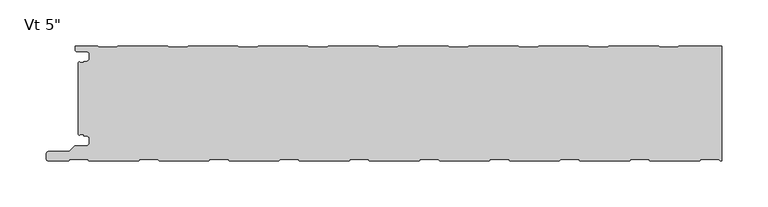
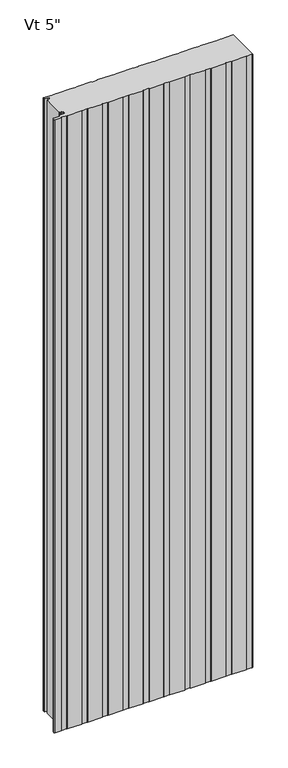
"""IFC4 building model written with IfcOpenShell, lengths in millimetres: plate geometry."""

import ifcopenshell
import ifcopenshell.guid

model = None  # the IFC model being written
_history = None  # IfcOwnerHistory: only IFC2X3 demands one
_inside = {}  # id of a spatial element -> (the spatial element, [elements in it])
_under = {}  # id of a project, library or spatial element -> (it, [spatial elements below it])
_declared = {}  # id of a project -> (the project, [libraries it declares])
_typed = {}  # id of a type object -> (the type object, [elements of that type])
_made_of = {}  # id of a material, layer set ... -> (it, [elements and type objects made of it])


def new_model(schema):
    """Start an empty IFC model of exactly this schema.

    Asked for "IFC4X3", IfcOpenShell would pick the latest addendum, in which some entities
    have other attributes; the version numbers below select the first issue.
    IFC2X3 requires an IfcOwnerHistory on every rooted entity: one is made here for all.
    """
    global model, _history
    if schema == "IFC4X3":
        model = ifcopenshell.file(schema_version=(4, 3, 0, 0))
    else:
        model = ifcopenshell.file(schema=schema)
    _inside.clear()
    _under.clear()
    _declared.clear()
    _typed.clear()
    _made_of.clear()
    _history = None
    if model.schema == "IFC2X3":
        org = make("IfcOrganization", Name="unknown")
        user = make(
            "IfcPersonAndOrganization",
            ThePerson=make("IfcPerson", FamilyName="unknown"),
            TheOrganization=org,
        )
        app = make(
            "IfcApplication",
            ApplicationDeveloper=org,
            Version="unknown",
            ApplicationFullName="unknown",
            ApplicationIdentifier="unknown",
        )
        _history = make(
            "IfcOwnerHistory",
            OwningUser=user,
            OwningApplication=app,
            ChangeAction="ADDED",
            CreationDate=0,
        )
    return model


def make(cls, **values):
    """One entity of the class cls with the attributes given. An attribute that is None is left unset."""
    return model.create_entity(
        cls, **{name: value for name, value in values.items() if value is not None}
    )


def rooted(cls, **values):
    """An entity with a GlobalId (a new one), such as an element, a storey or a relation."""
    return make(cls, GlobalId=ifcopenshell.guid.new(), OwnerHistory=_history, **values)


def si_unit(unit_type, name, prefix=None):
    """IfcSIUnit, for example si_unit("LENGTHUNIT", "METRE", prefix="MILLI")."""
    return make("IfcSIUnit", UnitType=unit_type, Prefix=prefix, Name=name)


def assignment(units):
    """IfcUnitAssignment: the units of a project."""
    return None if units is None else make("IfcUnitAssignment", Units=units)


def point(xyz):
    """IfcCartesianPoint."""
    return None if xyz is None else make("IfcCartesianPoint", Coordinates=xyz)


def direction(xyz):
    """IfcDirection."""
    return None if xyz is None else make("IfcDirection", DirectionRatios=xyz)


def frame(location, z_axis=None, x_axis=None):
    """IfcAxis2Placement3D, a coordinate frame: its origin and axes. An axis left out is left unset."""
    return make(
        "IfcAxis2Placement3D",
        Location=point(location),
        Axis=direction(z_axis),
        RefDirection=direction(x_axis),
    )


def frame_2d(location, x_axis=None):
    """IfcAxis2Placement2D, a coordinate frame in the plane: its origin and x axis."""
    return make(
        "IfcAxis2Placement2D", Location=point(location), RefDirection=direction(x_axis)
    )


def origin():
    """The frame at (0, 0, 0) with its axes left unset."""
    return frame((0.0, 0.0, 0.0))


def origin_with_axes():
    """The frame at (0, 0, 0) with the z axis (0, 0, 1) and the x axis (1, 0, 0) written out."""
    return frame((0.0, 0.0, 0.0), z_axis=(0.0, 0.0, 1.0), x_axis=(1.0, 0.0, 0.0))


def place(relative_to, where):
    """IfcLocalPlacement: puts the frame where relative to a parent placement (None: the world)."""
    return make(
        "IfcLocalPlacement", PlacementRelTo=relative_to, RelativePlacement=where
    )


def context(
    kind, dimensions, precision=None, world=None, true_north=None, identifier=None
):
    """IfcGeometricRepresentationContext, for example the 3D "Model" context."""
    return make(
        "IfcGeometricRepresentationContext",
        ContextIdentifier=identifier,
        ContextType=kind,
        CoordinateSpaceDimension=dimensions,
        Precision=precision,
        WorldCoordinateSystem=world,
        TrueNorth=true_north,
    )


def project(units=None, contexts=None):
    """IfcProject with its units and contexts."""
    return rooted(
        "IfcProject",
        Name="project",
        RepresentationContexts=contexts,
        UnitsInContext=assignment(units),
    )


def spatial(cls, under=None, at=None, **own):
    """A site, building, storey or space (cls), placed at a placement, below another one or the project."""
    s = rooted(cls, ObjectPlacement=at, **own)
    if under is not None:
        _under.setdefault(under.id(), (under, []))[1].append(s)
    return s


def polyline(points):
    """IfcPolyline through the points."""
    return make("IfcPolyline", Points=[point(p) for p in points])


def circle_curve(where, radius):
    """IfcCircle in the frame where."""
    return make("IfcCircle", Position=where, Radius=radius)


def trimmed(basis, trim1, trim2, sense, master):
    """IfcTrimmedCurve: the piece of a basis curve between two trims."""
    return make(
        "IfcTrimmedCurve",
        BasisCurve=basis,
        Trim1=trim1,
        Trim2=trim2,
        SenseAgreement=sense,
        MasterRepresentation=master,
    )


def segment(curve, same_sense, transition):
    """IfcCompositeCurveSegment."""
    return make(
        "IfcCompositeCurveSegment",
        Transition=transition,
        SameSense=same_sense,
        ParentCurve=curve,
    )


def composite_curve(segments, self_intersect=None):
    """IfcCompositeCurve: segments joined end to end."""
    return make("IfcCompositeCurve", Segments=segments, SelfIntersect=self_intersect)


def outline(outer, holes=None, kind="AREA"):
    """IfcArbitraryClosedProfileDef: a profile drawn as a closed curve; with holes, ...WithVoids."""
    if holes is None:
        return make("IfcArbitraryClosedProfileDef", ProfileType=kind, OuterCurve=outer)
    return make(
        "IfcArbitraryProfileDefWithVoids",
        ProfileType=kind,
        OuterCurve=outer,
        InnerCurves=holes,
    )


def extrude(swept, where, along, depth):
    """IfcExtrudedAreaSolid: the profile swept, set in the frame where, extruded along a direction by depth."""
    return make(
        "IfcExtrudedAreaSolid",
        SweptArea=swept,
        Position=where,
        ExtrudedDirection=direction(along),
        Depth=depth,
    )


def shape(context_of_items, identifier, shape_type, items):
    """IfcShapeRepresentation: the items that make up one representation, for example the "Body"."""
    return make(
        "IfcShapeRepresentation",
        ContextOfItems=context_of_items,
        RepresentationIdentifier=identifier,
        RepresentationType=shape_type,
        Items=items,
    )


def source(mapping_origin, context_of_items, identifier, shape_type, items):
    """IfcRepresentationMap: a shape defined once, which mapped items show again and again."""
    return make(
        "IfcRepresentationMap",
        MappingOrigin=mapping_origin,
        MappedRepresentation=shape(context_of_items, identifier, shape_type, items),
    )


def transform(
    local_origin,
    x_axis=None,
    y_axis=None,
    z_axis=None,
    scale=None,
    scale2=None,
    scale3=None,
    uniform=True,
):
    """IfcCartesianTransformationOperator3D, or its non-uniform kind. x_axis, y_axis, z_axis: its Axis1, 2, 3."""
    if uniform:
        return make(
            "IfcCartesianTransformationOperator3D",
            Axis1=direction(x_axis),
            Axis2=direction(y_axis),
            LocalOrigin=point(local_origin),
            Scale=scale,
            Axis3=direction(z_axis),
        )
    return make(
        "IfcCartesianTransformationOperator3DnonUniform",
        Axis1=direction(x_axis),
        Axis2=direction(y_axis),
        LocalOrigin=point(local_origin),
        Scale=scale,
        Axis3=direction(z_axis),
        Scale2=scale2,
        Scale3=scale3,
    )


def mapped(mapping_source, mapping_target):
    """IfcMappedItem: shows the shape of a source again, moved by a transform."""
    return make(
        "IfcMappedItem", MappingSource=mapping_source, MappingTarget=mapping_target
    )


def made_of(thing, what):
    """Note that an element or type object is made of a material, layer set ...; save() writes the relation."""
    if what is not None:
        _made_of.setdefault(what.id(), (what, []))[1].append(thing)
    return thing


def element(
    cls,
    number,
    at=None,
    inside=None,
    cuts=None,
    type_object=None,
    material=None,
    context=None,
    identifier="Body",
    shape_type=None,
    held_by="IfcProductDefinitionShape",
    body=None,
    shapes=None,
    **own,
):
    """One element of the class cls, such as IfcWall. Its Tag is "e" and its number.

    at: its placement. inside: the storey or other place that contains it. cuts: it is an
    opening in that element (IfcRelVoidsElement). A single representation is given by context,
    identifier, shape_type and body (its items); several are given by shapes. held_by: the class
    of the entity that holds the representations. save() writes the other relations.
    """
    e = rooted(cls, Tag="e%d" % number, ObjectPlacement=at, **own)
    if body is not None:
        shapes = [shape(context, identifier, shape_type, body)]
    if shapes is not None:
        e.Representation = make(held_by, Representations=shapes)
    if inside is not None:
        _inside.setdefault(inside.id(), (inside, []))[1].append(e)
    if cuts is not None:
        rooted(
            "IfcRelVoidsElement", RelatingBuildingElement=cuts, RelatedOpeningElement=e
        )
    if type_object is not None:
        _typed.setdefault(type_object.id(), (type_object, []))[1].append(e)
    return made_of(e, material)


def aggregate(whole, parts):
    """IfcRelAggregates: a whole, such as a stair, and the parts it consists of."""
    return rooted("IfcRelAggregates", RelatingObject=whole, RelatedObjects=parts)


def save(model, path):
    """Write the relations noted so far, then the file.

    IfcRelAggregates (storeys below a building ...), IfcRelContainedInSpatialStructure (elements
    in a storey), IfcRelDefinesByType, IfcRelAssociatesMaterial and IfcRelDeclares: one each for
    every whole, place, type object, material and project.
    """
    for whole, parts in _under.values():
        aggregate(whole, parts)
    for where, things in _inside.values():
        rooted(
            "IfcRelContainedInSpatialStructure",
            RelatedElements=things,
            RelatingStructure=where,
        )
    for kind, things in _typed.values():
        rooted("IfcRelDefinesByType", RelatedObjects=things, RelatingType=kind)
    for what, things in _made_of.values():
        rooted("IfcRelAssociatesMaterial", RelatedObjects=things, RelatingMaterial=what)
    for by, libraries in _declared.values():
        rooted("IfcRelDeclares", RelatingContext=by, RelatedDefinitions=libraries)
    model.write(path)


def plate_dabc4b1d(model_context):
    return source(origin(), model_context, "Body", "SweptSolid", [
        extrude(outline(composite_curve([segment(polyline([(-347.9683, -98.6760203), (-348.9999998, -97.6443205), (-348.9999998, -19.0328351), (-347.9686882, -18.0015235)]), True, "CONTINUOUS"), segment(trimmed(circle_curve(frame_2d((-346.968691, -18.0015175)), 0.9999972), [point((-347.9686882, -18.0015235))], [point((-346.968691, -19.0015147))], True, "CARTESIAN"), True, "CONTINUOUS"), segment(polyline([(-346.968691, -19.0015147), (-342.9684873, -19.0015147), (-342.9684873, -18.0015202), (-340.2762775, -18.0015202)]), True, "CONTINUOUS"), segment(trimmed(circle_curve(frame_2d((-340.2762775, -14.7015245)), 3.2999957), [point((-340.2762775, -18.0015202))], [point((-336.9762818, -14.7015245))], True, "CARTESIAN"), True, "CONTINUOUS"), segment(polyline([(-336.9762818, -14.7015245), (-336.9762818, -10.3015333)]), True, "CONTINUOUS"), segment(trimmed(circle_curve(frame_2d((-340.2762777, -10.3015333)), 3.2999959), [point((-336.9762818, -10.3015333))], [point((-340.2762777, -7.0015374))], True, "CARTESIAN"), True, "CONTINUOUS"), segment(polyline([(-340.2762777, -7.0015374), (-350.6962562, -7.0015374)]), True, "CONTINUOUS"), segment(trimmed(circle_curve(frame_2d((-350.6962562, -5.2315432)), 1.7699942), [point((-350.6962562, -7.0015374))], [point((-352.4662504, -5.2315432))], False, "CARTESIAN"), True, "CONTINUOUS"), segment(polyline([(-352.4662504, -5.2315432), (-352.4662504, -0.9999959), (-327.9659738, -0.9999959), (-326.5803312, -2.200235), (-307.2051649, -2.200235), (-305.8195319, -1.0000043), (-251.7661165, -1.0000043), (-250.3804836, -2.200235), (-231.0053173, -2.200235), (-229.6196843, -1.0000043), (-175.5662689, -1.0000043), (-174.180636, -2.200235), (-154.8054697, -2.200235), (-153.4198367, -1.0000043), (-99.3664213, -1.0000043), (-97.9807884, -2.200235), (-78.6056221, -2.200235), (-77.2199891, -1.0000043), (-23.1665737, -1.0000043), (-21.7809408, -2.200235), (-2.4057745, -2.200235), (-1.0201415, -1.0000043), (53.0332739, -1.0000043), (54.4189068, -2.200235), (73.7940731, -2.200235), (75.1797061, -1.0000043), (129.2331215, -1.0000043), (130.6187544, -2.200235), (149.9939207, -2.200235), (151.3795537, -1.0000043), (205.4329691, -1.0000043), (206.818602, -2.200235), (226.1937683, -2.200235), (227.5794013, -1.0000043), (281.6328167, -1.0000043), (283.0184496, -2.200235), (302.3936159, -2.200235), (303.7792489, -1.0000043), (350.4999998, -1.0000043), (350.4999998, -126.0051454), (348.445708, -126.0051454), (347.2403362, -124.7997736), (327.5209237, -124.7997736), (326.320693, -126.0000043), (272.2405612, -126.0000043), (271.0403305, -124.7997736), (251.320918, -124.7997736), (250.1206873, -126.0000043), (196.0405555, -126.0000043), (194.8403248, -124.7997736), (175.1209123, -124.7997736), (173.9206816, -126.0000043), (119.8405499, -126.0000043), (118.6403192, -124.7997736), (98.9209066, -124.7997736), (97.7206759, -126.0000043), (43.6405442, -126.0000043), (42.4403135, -124.7997736), (22.720901, -124.7997736), (21.5206703, -126.0000043), (-32.5594615, -126.0000043), (-33.7596922, -124.7997736), (-53.4791047, -124.7997736), (-54.6793354, -126.0000043), (-108.7594672, -126.0000043), (-109.9596979, -124.7997736), (-129.6791104, -124.7997736), (-130.8793411, -126.0000043), (-184.9594729, -126.0000043), (-186.1597036, -124.7997736), (-205.8791161, -124.7997736), (-207.0793468, -126.0000043), (-261.1594786, -126.0000043), (-262.3597093, -124.7997736), (-282.0791218, -124.7997736), (-283.2793525, -126.0000043), (-337.3594843, -126.0000043), (-338.559715, -124.7997736), (-358.2791275, -124.7997736), (-359.479096, -125.9997421), (-381.4521175, -125.9997421)]), True, "CONTINUOUS"), segment(trimmed(circle_curve(frame_2d((-381.4521175, -123.4295028)), 2.5702393), [point((-381.4521175, -125.9997421))], [point((-384.0125697, -123.2054172))], False, "CARTESIAN"), True, "CONTINUOUS"), segment(polyline([(-384.0125697, -123.2054172), (-383.5765707, -118.2235963)]), True, "CONTINUOUS"), segment(trimmed(circle_curve(frame_2d((-380.9198391, -118.7049869)), 2.6999926), [point((-383.5765707, -118.2235963))], [point((-380.9198391, -116.0049943))], False, "CARTESIAN"), True, "CONTINUOUS"), segment(polyline([(-380.9198391, -116.0049943), (-358.8247094, -116.0049943), (-353.3226383, -110.5029232)]), True, "CONTINUOUS"), segment(trimmed(circle_curve(frame_2d((-352.1205606, -111.7050009)), 1.6999946), [point((-353.3226383, -110.5029232))], [point((-352.1205606, -110.0050063))], False, "CARTESIAN"), True, "CONTINUOUS"), segment(polyline([(-352.1205606, -110.0050063), (-340.3096715, -110.0050063)]), True, "CONTINUOUS"), segment(trimmed(circle_curve(frame_2d((-340.3096715, -106.655011)), 3.3499953), [point((-340.3096715, -110.0050063))], [point((-336.9596762, -106.655011))], True, "CARTESIAN"), True, "CONTINUOUS"), segment(polyline([(-336.9596762, -106.655011), (-336.9596762, -102.2550198)]), True, "CONTINUOUS"), segment(trimmed(circle_curve(frame_2d((-340.3096715, -102.2550198)), 3.3499953), [point((-336.9596762, -102.2550198))], [point((-340.3096715, -98.9050245))], True, "CARTESIAN"), True, "CONTINUOUS"), segment(polyline([(-340.3096715, -98.9050245), (-343.0087826, -98.9050245), (-343.0087826, -97.5065456), (-346.767176, -97.5065456)]), True, "CONTINUOUS"), segment(trimmed(circle_curve(frame_2d((-346.7686906, -98.7065423)), 1.1999976), [point((-346.767176, -97.5065456))], [point((-347.9683, -98.6760203))], True, "CARTESIAN"), True, "CONTINUOUS")], self_intersect=False)), origin_with_axes(), (0.0, 0.0, 1.0), 2400.0),
    ])


if __name__ == "__main__":
    model = new_model("IFC4")
    model_context = context("Model", 3, world=origin())
    ifc_project = project(units=[si_unit("LENGTHUNIT", "METRE", prefix="MILLI")], contexts=[model_context])
    site = spatial("IfcSite", under=ifc_project)
    building = spatial("IfcBuilding", under=site)
    placement = place(None, origin())
    plate_shape = plate_dabc4b1d(model_context)
    element("IfcPlate", 1, ObjectType="KIP-30-Karrier-KP-R19-CP-Vt-SL_SL : Vt 5\"", at=placement, inside=building, context=model_context, shape_type="MappedRepresentation", body=[
        mapped(plate_shape, transform((0.0, 0.0, 0.0), x_axis=(1.0, 0.0, 0.0), y_axis=(0.0, 1.0, 0.0), z_axis=(0.0, 0.0, 1.0))),
    ])
    save(model, "model.ifc")
